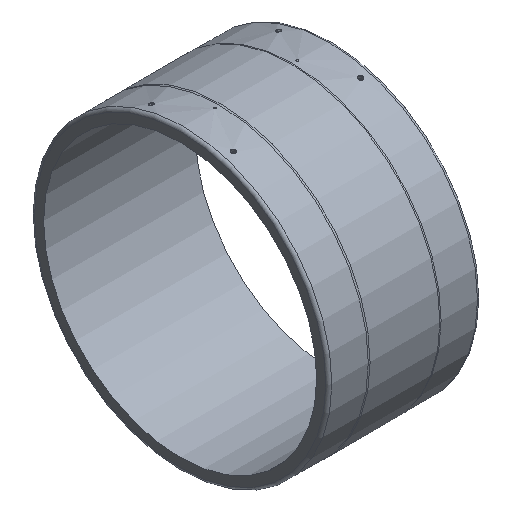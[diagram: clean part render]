
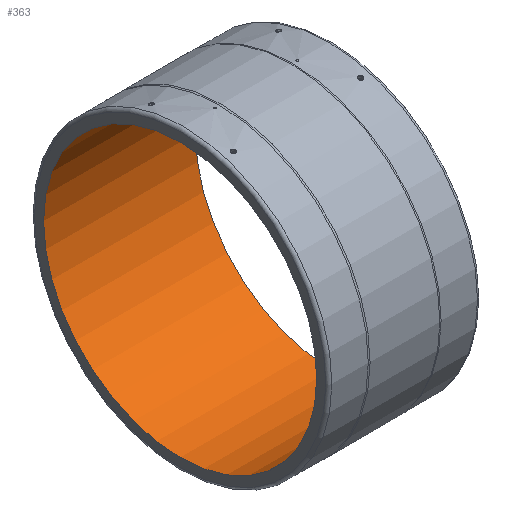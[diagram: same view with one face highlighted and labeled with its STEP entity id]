
A CAD part, isometric view. The second image highlights one B-rep face of the part: STEP entity #363.
In plain terms, the highlighted cylindrical face has radius 450 mm (diameter 900 mm), a full revolution.
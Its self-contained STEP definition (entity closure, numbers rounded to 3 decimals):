
#55=ORIENTED_EDGE('',*,*,#122,.T.);
#56=ORIENTED_EDGE('',*,*,#121,.F.);
#121=EDGE_CURVE('',#155,#155,#188,.T.);
#122=EDGE_CURVE('',#156,#156,#189,.T.);
#155=VERTEX_POINT('',#592);
#156=VERTEX_POINT('',#595);
#188=CIRCLE('',#412,450.);
#189=CIRCLE('',#414,450.);
#215=EDGE_LOOP('',(#55));
#216=EDGE_LOOP('',(#56));
#283=FACE_BOUND('',#215,.T.);
#284=FACE_BOUND('',#216,.T.);
#347=CYLINDRICAL_SURFACE('',#413,450.);
#363=ADVANCED_FACE('',(#283,#284),#347,.F.);
#412=AXIS2_PLACEMENT_3D('',#591,#473,#474);
#413=AXIS2_PLACEMENT_3D('',#593,#475,#476);
#414=AXIS2_PLACEMENT_3D('',#594,#477,#478);
#473=DIRECTION('',(-1.,0.,0.));
#474=DIRECTION('',(0.,0.,1.));
#475=DIRECTION('',(-1.,0.,0.));
#476=DIRECTION('',(0.,0.,1.));
#477=DIRECTION('',(-1.,0.,0.));
#478=DIRECTION('',(0.,0.,1.));
#591=CARTESIAN_POINT('',(250.,0.,0.));
#592=CARTESIAN_POINT('',(250.,0.,450.));
#593=CARTESIAN_POINT('',(-25.,0.,0.));
#594=CARTESIAN_POINT('',(-250.,0.,0.));
#595=CARTESIAN_POINT('',(-250.,0.,450.));
